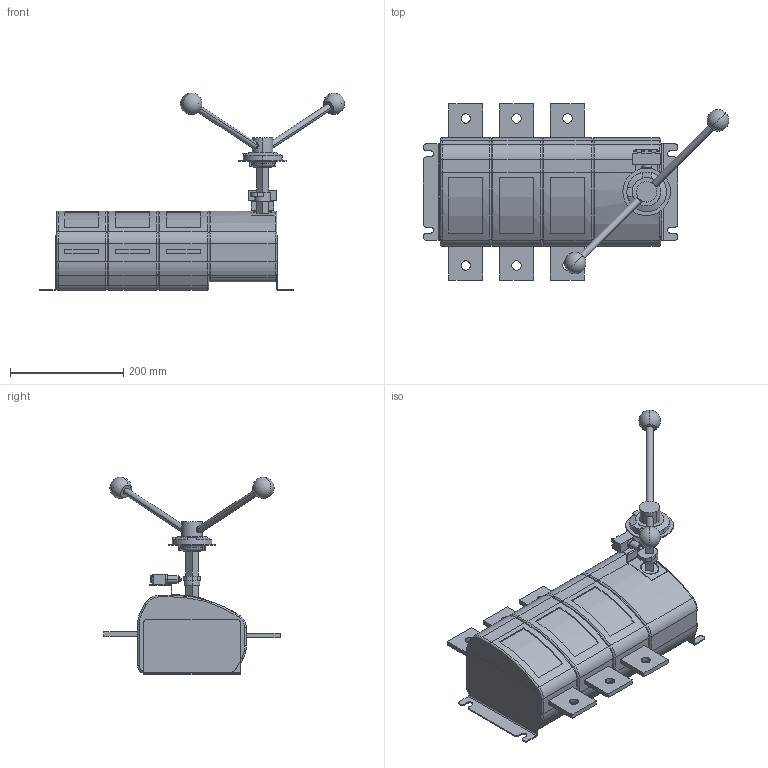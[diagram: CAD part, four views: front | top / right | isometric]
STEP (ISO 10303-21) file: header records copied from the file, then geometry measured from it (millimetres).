
FILE_DESCRIPTION (( 'STEP AP214' ), '1' );
FILE_NAME ('Âûêëþ÷àòåëü íàãðóçêè ÂÍÊ-41-31131-1000À-IP32-ÓÕË3-ÊÝÀÇ.STEP', '2023-04-19T13:41:16', ( '' ), ( '' ), 'SwSTEP 2.0', 'SolidWorks 2018', '' );
FILE_SCHEMA (( 'AUTOMOTIVE_DESIGN' ));
Length unit declared in the file: millimetre
Products named in the file (1): Âûêëþ÷àòåëü íàãðóçêè ÂÍÊ-41-31131-1000À-IP32-ÓÕË3-ÊÝÀÇ
Bounding box: 539.34 x 311.4 x 349.8 mm (x, y, z)
Volume: 9465712.3 mm3; surface area: 555066.2 mm2
Topology: 12 solids, 12 shells, 459 faces, 1104 edges, 695 vertices
Faces by surface type: plane 208, cylinder 181, torus 60, sphere 6, cone 4
Entity records: 19011 total; most frequent: CARTESIAN_POINT 2833, DIRECTION 2451, ORIENTED_EDGE 2180, EDGE_CURVE 1090, AXIS2_PLACEMENT_3D 925, VERTEX_POINT 687, LINE 601, VECTOR 601
